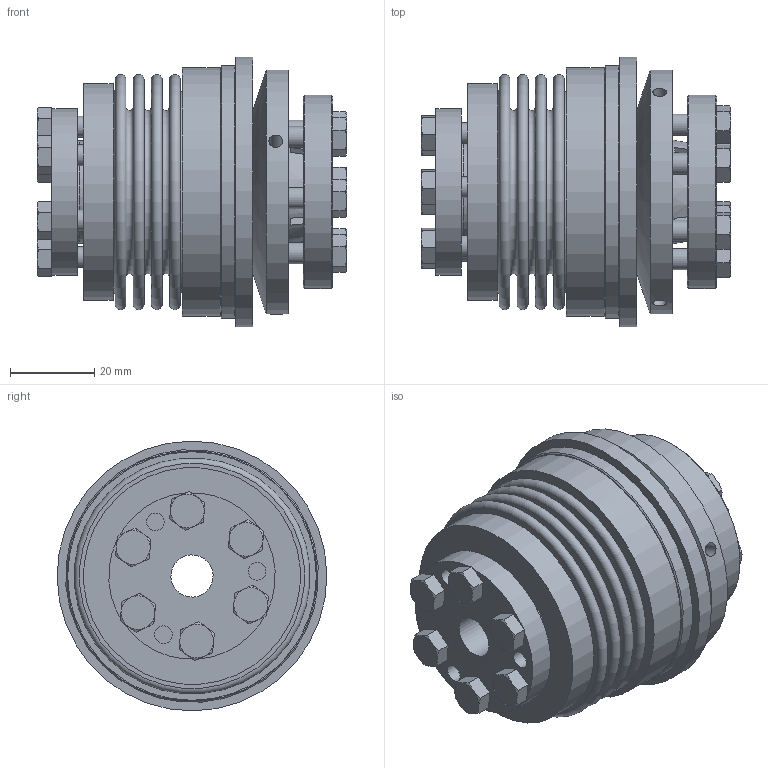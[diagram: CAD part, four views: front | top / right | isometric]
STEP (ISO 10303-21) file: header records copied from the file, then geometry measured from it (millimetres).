
FILE_DESCRIPTION( ( 'Unknown' ), '1' );
FILE_NAME( 'K:/Konstruktion/Korrigierte 3D Modelle/KBK-B-IA/KBK-BIA-30-74.stp', 'Unknown', ( 'Unknown' ), ( 'Unknown' ), 'PSStep 16.0.42', 'Unknown', ' ' );
FILE_SCHEMA( ( 'AUTOMOTIVE_DESIGN { 1 0 10303 214 1 1 1 1 }' ) );
Length unit declared in the file: millimetre
Products named in the file (18): L-A-30 Grundkörper_0; din_en_24017_m5x16_0; Stellring 30_0; Druckring 30_0; Druckring L-A-30_0; BA5-30; Hex Screw GradeC_DIN_ISO 4018 - M5 x 20-NN_1; KB30_Standard_1; BA30_Standard_1; A-30; Assem1; BK30_Standard_1; Flansch BK30
Assembly tree (27 placements, depth 4):
  Assem1
    BK30_Standard_1
    Flansch BK30
    BA5-30
      Hex Screw GradeC_DIN_ISO 4018 - M5 x 20-NN_1  x6
      KB30_Standard_1
      BA30_Standard_1
    A-30
      Stellring 30_0
        Stellring 30_0
      Druckring 30_0
        Druckring 30_0
      L-A-30 Grundkörper_0
        L-A-30 Grundkörper_0
      din_en_24017_m5x16_0  x6
        din_en_24017_m5x16_0
      Druckring L-A-30_0
        Druckring L-A-30_0
Bounding box: 73.45 x 64 x 64 mm (x, y, z)
Volume: 106981.6 mm3; surface area: 75149.7 mm2
Topology: 20 solids, 20 shells, 387 faces, 809 edges, 513 vertices
Faces by surface type: plane 181, cone 107, cylinder 73, torus 26
Full cylindrical faces by diameter (mm): 3.242 x3, 4.134 x6, 4.2 x9, 5 x12, 5.5 x12, 6.88 x6, 10 x1, 12 x1, 23.9 x1, 24.4 x1, 24.7 x1, 25 x2, 34 x1, 37 x2, 38 x2, 39.5 x1, 40 x1, 46 x1, 46.5 x2, 47.3 x2, 51.5 x1, 52 x1, 58 x1, 59 x1, 60 x1, 64 x1
Entity records: 6984 total; most frequent: CARTESIAN_POINT 1143, DIRECTION 920, ORIENTED_EDGE 574, AXIS2_PLACEMENT_3D 436, EDGE_LOOP 384, EDGE_CURVE 287, FACE_OUTER_BOUND 271, VERTEX_POINT 251
